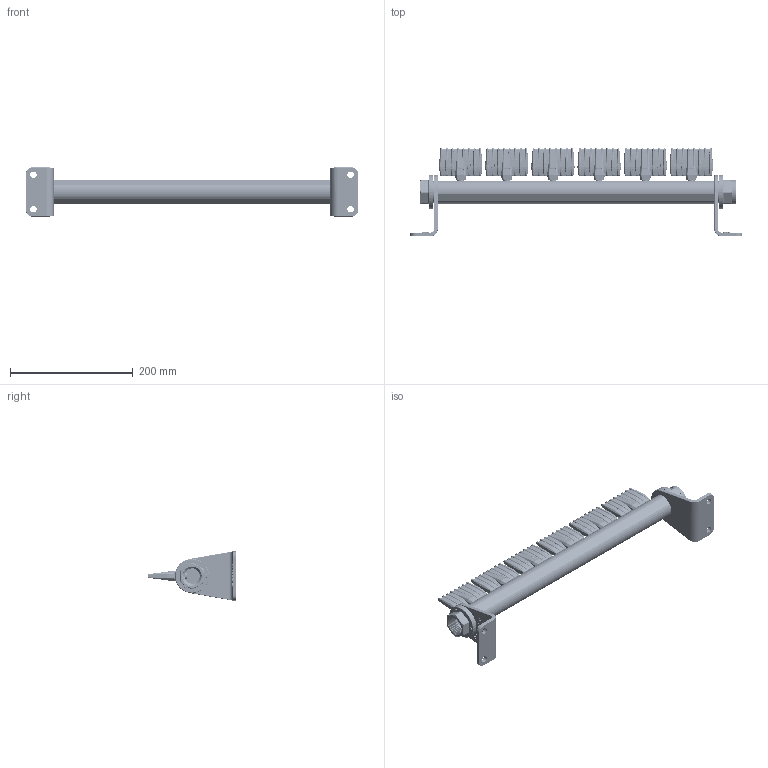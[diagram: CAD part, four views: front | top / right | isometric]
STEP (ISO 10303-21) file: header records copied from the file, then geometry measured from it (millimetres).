
FILE_DESCRIPTION (( 'STEP AP214' ), '1' );
FILE_NAME ('376W-S.STEP', '2024-10-15T13:16:19', ( '' ), ( '' ), 'SwSTEP 2.0', 'SolidWorks 2021', '' );
FILE_SCHEMA (( 'AUTOMOTIVE_DESIGN' ));
Length unit declared in the file: millimetre
Products named in the file (8): Nippel EA1; 9003W-S; Plugg 1 SS; 376W-S; Silvent MB1; 90000000572_Skruv_Insex_M5x8_DIN914_A2; 70060_Profil 376 W-S; Silvent M1E
Assembly tree (15 placements, depth 3):
  376W-S
    70060_Profil 376 W-S
    9003W-S  x6
    Silvent M1E  x2
      Silvent MB1
      Nippel EA1
      90000000572_Skruv_Insex_M5x8_DIN914_A2
    Plugg 1 SS
Bounding box: 540 x 144.5 x 80 mm (x, y, z)
Volume: 516626.2 mm3; surface area: 226307.1 mm2
Topology: 18 solids, 18 shells, 8464 faces, 19413 edges, 10856 vertices
Faces by surface type: cylinder 3220, bspline 3072, plane 1874, sphere 192, cone 82, torus 24
Entity records: 79456 total; most frequent: CARTESIAN_POINT 31096, ORIENTED_EDGE 7932, DIRECTION 6234, EDGE_CURVE 3966, VERTEX_POINT 2301, AXIS2_PLACEMENT_3D 2287, EDGE_LOOP 1779, FACE_OUTER_BOUND 1714
